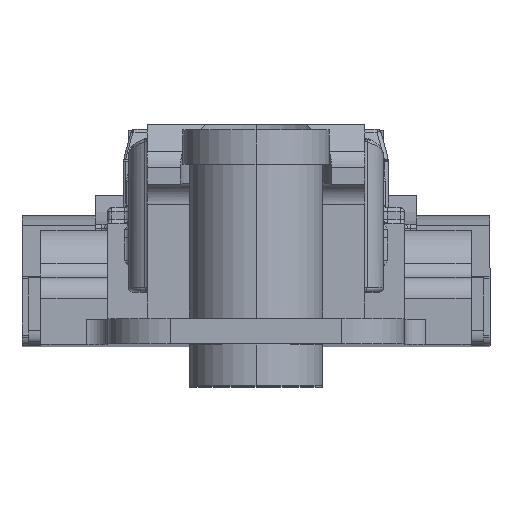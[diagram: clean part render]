
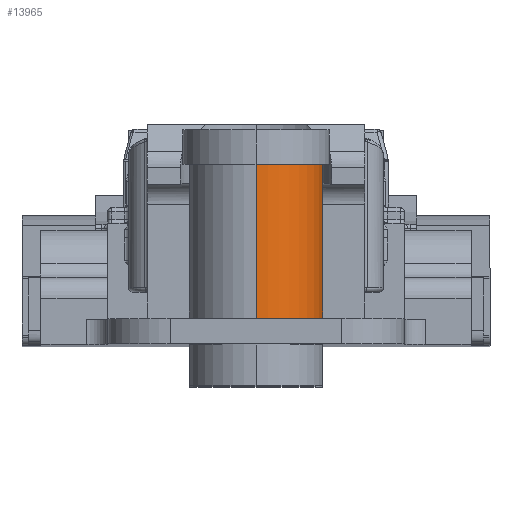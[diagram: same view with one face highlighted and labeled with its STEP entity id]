
A CAD part, top view. The second image highlights one B-rep face of the part: STEP entity #13965.
In plain terms, the highlighted cylindrical face has radius 3.2 mm (diameter 6.4 mm), a partial arc.
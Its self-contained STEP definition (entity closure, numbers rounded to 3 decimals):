
#243 = EDGE_CURVE ( 'NONE', #7978, #12755, #11380, .T. ) ;
#844 = DIRECTION ( 'NONE',  ( 0., 1., 0. ) ) ;
#1227 = DIRECTION ( 'NONE',  ( 0., 1., 0. ) ) ;
#3529 = AXIS2_PLACEMENT_3D ( 'NONE', #14281, #844, #15862 ) ;
#3571 = CARTESIAN_POINT ( 'NONE',  ( 0., 8.6, 45.994 ) ) ;
#3880 = LINE ( 'NONE', #16253, #11421 ) ;
#4006 = VERTEX_POINT ( 'NONE', #15895 ) ;
#4127 = EDGE_LOOP ( 'NONE', ( #15423, #13064, #11664, #16863 ) ) ;
#4527 = CARTESIAN_POINT ( 'NONE',  ( 0., 1.2, 42.794 ) ) ;
#4754 = EDGE_CURVE ( 'NONE', #15118, #4006, #11735, .T. ) ;
#5156 = DIRECTION ( 'NONE',  ( 0., 0., 1. ) ) ;
#5244 = DIRECTION ( 'NONE',  ( 0., 1., 0. ) ) ;
#5561 = CARTESIAN_POINT ( 'NONE',  ( 0., 8.6, 49.194 ) ) ;
#7884 = CYLINDRICAL_SURFACE ( 'NONE', #9595, 3.2 ) ;
#7978 = VERTEX_POINT ( 'NONE', #9177 ) ;
#8057 = FACE_OUTER_BOUND ( 'NONE', #4127, .T. ) ;
#9069 = LINE ( 'NONE', #17222, #17115 ) ;
#9177 = CARTESIAN_POINT ( 'NONE',  ( 0., 1.2, 49.194 ) ) ;
#9595 = AXIS2_PLACEMENT_3D ( 'NONE', #13138, #5244, #5156 ) ;
#10182 = DIRECTION ( 'NONE',  ( 0., 1., 0. ) ) ;
#11380 = CIRCLE ( 'NONE', #3529, 3.2 ) ;
#11421 = VECTOR ( 'NONE', #14587, 1000. ) ;
#11664 = ORIENTED_EDGE ( 'NONE', *, *, #4754, .F. ) ;
#11735 = CIRCLE ( 'NONE', #13968, 3.2 ) ;
#12179 = EDGE_CURVE ( 'NONE', #7978, #15118, #9069, .T. ) ;
#12755 = VERTEX_POINT ( 'NONE', #4527 ) ;
#13064 = ORIENTED_EDGE ( 'NONE', *, *, #16630, .T. ) ;
#13138 = CARTESIAN_POINT ( 'NONE',  ( 0., -11.051, 45.994 ) ) ;
#13965 = ADVANCED_FACE ( 'NONE', ( #8057 ), #7884, .T. ) ;
#13968 = AXIS2_PLACEMENT_3D ( 'NONE', #3571, #10182, #15681 ) ;
#14281 = CARTESIAN_POINT ( 'NONE',  ( 0., 1.2, 45.994 ) ) ;
#14587 = DIRECTION ( 'NONE',  ( 0., 1., 0. ) ) ;
#15118 = VERTEX_POINT ( 'NONE', #5561 ) ;
#15423 = ORIENTED_EDGE ( 'NONE', *, *, #243, .T. ) ;
#15681 = DIRECTION ( 'NONE',  ( 0., 0., 1. ) ) ;
#15862 = DIRECTION ( 'NONE',  ( -1., 0., 0. ) ) ;
#15895 = CARTESIAN_POINT ( 'NONE',  ( 0., 8.6, 42.794 ) ) ;
#16253 = CARTESIAN_POINT ( 'NONE',  ( 0., -11.051, 42.794 ) ) ;
#16630 = EDGE_CURVE ( 'NONE', #12755, #4006, #3880, .T. ) ;
#16863 = ORIENTED_EDGE ( 'NONE', *, *, #12179, .F. ) ;
#17115 = VECTOR ( 'NONE', #1227, 1000. ) ;
#17222 = CARTESIAN_POINT ( 'NONE',  ( 0., -11.051, 49.194 ) ) ;
